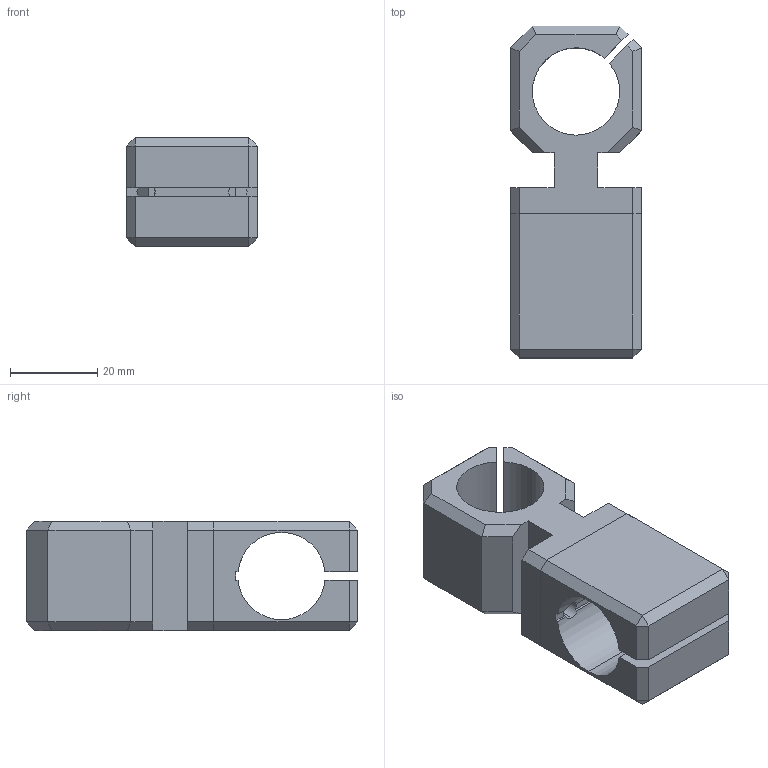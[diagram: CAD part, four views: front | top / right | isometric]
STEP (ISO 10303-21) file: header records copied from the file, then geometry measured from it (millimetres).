
FILE_DESCRIPTION (( 'STEP AP203' ), '1' );
FILE_NAME ('B2-FD.STEP', '2011-12-21T07:50:10', ( '' ), ( '' ), 'SwSTEP 2.0', 'SolidWorks 2010', '' );
FILE_SCHEMA (( 'CONFIG_CONTROL_DESIGN' ));
Length unit declared in the file: millimetre
Products named in the file (3): B2-FD; B2-FD_Roh_mec001500 Klemmung; B2-FD_Roh_mec001504-6 KlemmungZapfen_Zapfen ø20
Assembly tree (2 placements, depth 2):
  B2-FD
    B2-FD_Roh_mec001504-6 KlemmungZapfen_Zapfen ø20
    B2-FD_Roh_mec001500 Klemmung
Bounding box: 30 x 76 x 25 mm (x, y, z)
Volume: 32269.4 mm3; surface area: 14094.4 mm2
Topology: 2 solids, 2 shells, 89 faces, 237 edges, 150 vertices
Faces by surface type: plane 75, cylinder 14
Entity records: 3084 total; most frequent: CARTESIAN_POINT 553, ORIENTED_EDGE 474, DIRECTION 445, EDGE_CURVE 237, LINE 201, VECTOR 201, VERTEX_POINT 150, AXIS2_PLACEMENT_3D 122
